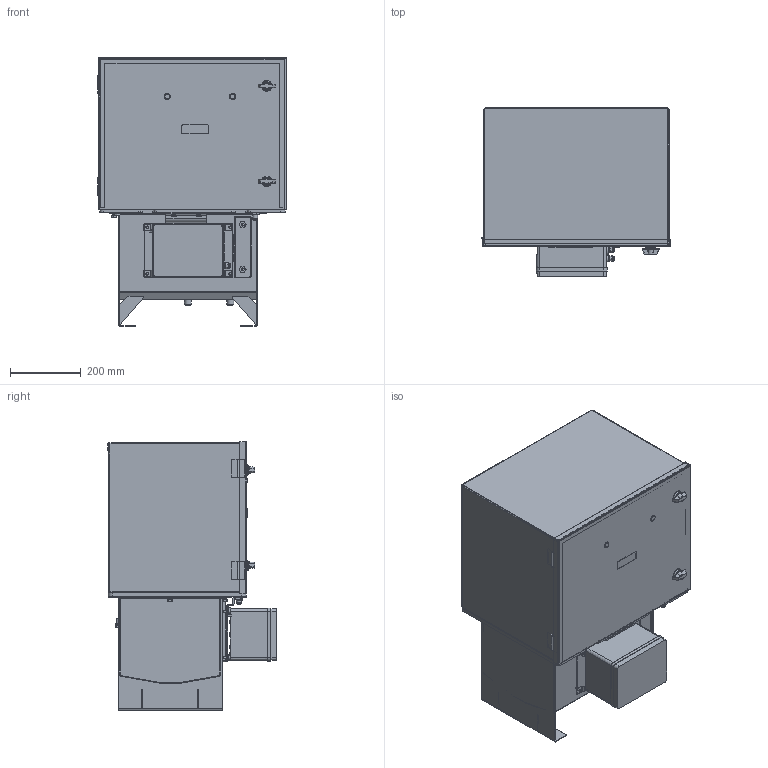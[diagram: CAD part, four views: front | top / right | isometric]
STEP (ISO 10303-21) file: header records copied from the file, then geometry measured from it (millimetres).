
FILE_DESCRIPTION(/* description */ (''),/* implementation_level */ '2;1');
FILE_NAME(/* name */ 'C:\Users\nemgal01\Desktop\STEP\73171.stp',/* time_stamp */ '2017-03-09T12:37:56+01:00',/* author */ ('nemgal01'),/* organization */ (''),/* preprocessor_version */ 'ST-DEVELOPER v16.1',/* originating_system */ 'Autodesk Inventor 2016',/* authorisation */ '');
FILE_SCHEMA (('AUTOMOTIVE_DESIGN { 1 0 10303 214 3 1 1 }'));
Products named in the file (1): Assembly7_Shrinkwrap_1
Bounding box: 532.88 x 477.09 x 760.59 mm (x, y, z)
Volume: 16044810.8 mm3; surface area: 4332564.9 mm2
Topology: 4 solids, 4 shells, 2214 faces, 5874 edges, 3709 vertices
Faces by surface type: plane 1207, cylinder 551, cone 285, bspline 110, torus 37, sphere 24
Full cylindrical faces by diameter (mm): 5 x10, 7.323 x6, 8 x4, 8.5 x4, 9.8 x2, 10 x14, 10.209 x2, 11.4 x5, 12 x2, 12.217 x2, 13.2 x3, 14 x4, 14.224 x1, 14.287 x2, 15 x3, 16 x2, 17.526 x2, 18 x2, 18.5 x6, 20 x2, 30 x2, 30.5 x1
Entity records: 71319 total; most frequent: CARTESIAN_POINT 16313, ORIENTED_EDGE 11196, DIRECTION 10730, EDGE_CURVE 5594, AXIS2_PLACEMENT_3D 3839, VERTEX_POINT 3623, LINE 3052, VECTOR 3052
